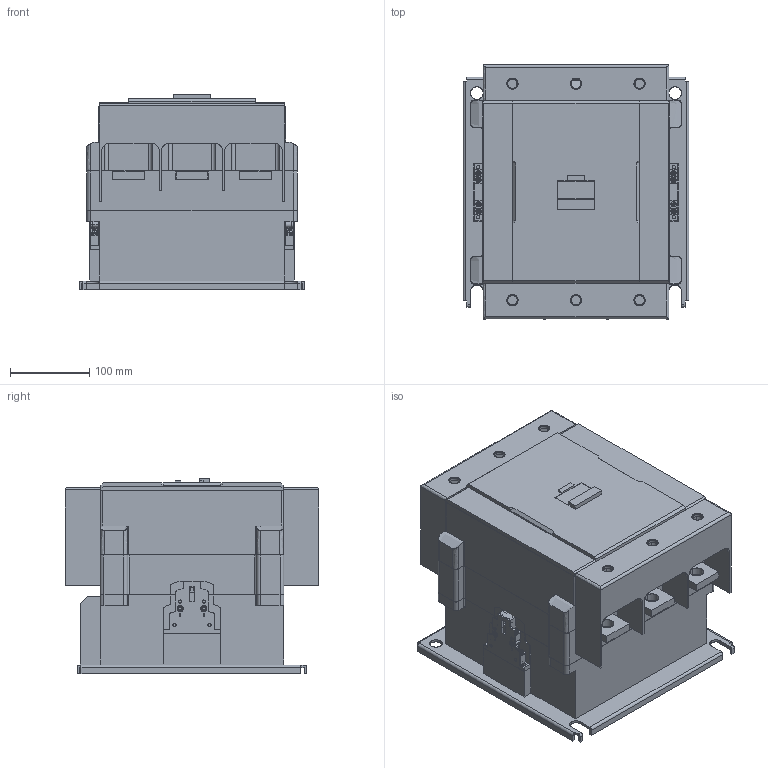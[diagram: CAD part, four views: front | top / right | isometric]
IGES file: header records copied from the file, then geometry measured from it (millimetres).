
Start section: SolidWorks IGES file using analytic representation for surfaces
Global section: file name: Q:\GROUPS\BR_SC_JGS_WA_TECNICO\ENG\Usuarios\Rodrigob\conversão\contatores\Produto\CWM500-CWM630-CWM800+BMP\CWM500-CWM630-CWM800+BMP.IGS; native system: SolidWorks 2009; preprocessor: SolidWorks 2009; author: rodrigob; date: 110922.114407; units: millimetre
Bounding box: 285 x 320.22 x 246.52 mm (x, y, z)
Surface area: 1549337.9 mm2 (no closed solid volume)
Topology: 0 solids, 0 shells, 2217 faces, 20648 edges, 20592 vertices
Faces by surface type: bspline 1747, revolution 470
